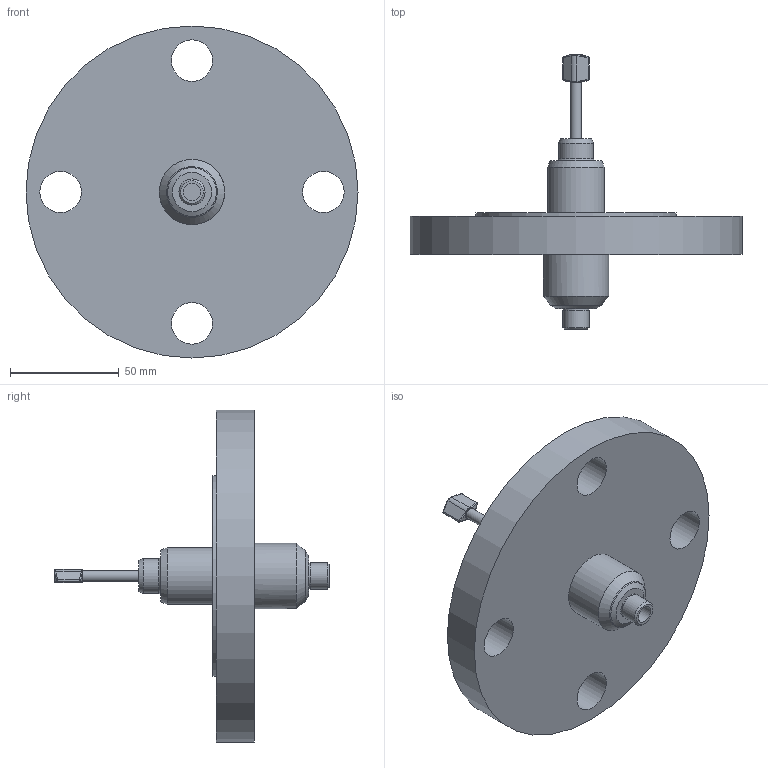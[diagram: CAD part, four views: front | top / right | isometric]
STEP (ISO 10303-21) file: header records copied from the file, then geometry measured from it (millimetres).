
FILE_DESCRIPTION(/* description */ ('Unknown','CAx-IF Rec.Pracs.---Representation and Presentation of Product Manufacturing Information (PMI)---4.0---2014-10-13','CAx-IF Rec.Pracs.---3D Tessellated Geometry---0.4---2014-09-14','2;1'),/* implementation_level */ '2;1');
FILE_NAME(/* name */ 'SRD_Weldon_ANSI_150lb_2inch',/* time_stamp */ '2022-02-24T16:42:10+01:00',/* author */ ('Unknown'),/* organization */ ('Unknown'),/* preprocessor_version */ 'ST-DEVELOPER v16.7',/* originating_system */ 'Solid Edge',/* authorisation */ 'Unknown');
FILE_SCHEMA (('AP242_MANAGED_MODEL_BASED_3D_ENGINEERING_MIM_LF { 1 0 10303 442 1 1 4 }'));
Length unit declared in the file: millimetre
Products named in the file (1): 10613_A
Bounding box: 152.4 x 126.15 x 152.4 mm (x, y, z)
Volume: 341831.4 mm3; surface area: 52925.4 mm2
Topology: 1 solids, 1 shells, 61 faces, 134 edges, 83 vertices
Faces by surface type: cylinder 17, bspline 16, plane 14, cone 9, torus 5
Full cylindrical faces by diameter (mm): 5 x1, 8 x1, 12 x2, 16 x1, 19.05 x4, 26 x1, 30 x1, 91.948 x1, 152.4 x1
Entity records: 2143 total; most frequent: CARTESIAN_POINT 554, DIRECTION 234, ORIENTED_EDGE 206, AXIS2_PLACEMENT_3D 113, EDGE_CURVE 103, EDGE_LOOP 98, FACE_BOUND 98, VERTEX_POINT 73
